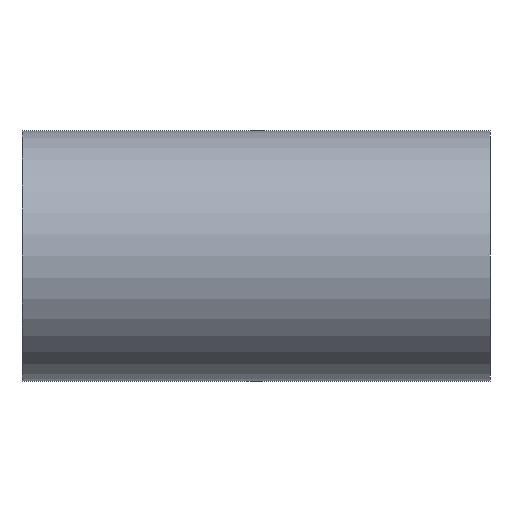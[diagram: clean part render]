
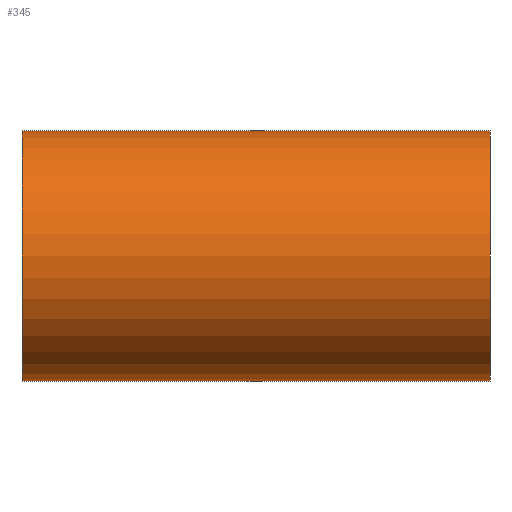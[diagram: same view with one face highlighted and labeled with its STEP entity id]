
A CAD part, left-side view. The second image highlights one B-rep face of the part: STEP entity #345.
In plain terms, the highlighted cylindrical face has radius 30.5 mm (diameter 61 mm), a full revolution.
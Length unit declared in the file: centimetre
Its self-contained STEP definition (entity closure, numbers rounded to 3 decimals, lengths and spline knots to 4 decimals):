
#54=FACE_BOUND('',#132,.T.);
#55=FACE_BOUND('',#133,.T.);
#78=CIRCLE('',#384,3.05);
#79=CIRCLE('',#385,3.05);
#99=FACE_OUTER_BOUND('',#131,.T.);
#131=EDGE_LOOP('',(#274));
#132=EDGE_LOOP('',(#275,#276));
#133=EDGE_LOOP('',(#277));
#151=ELLIPSE('',#357,4.3134,3.05);
#152=ELLIPSE('',#358,4.3134,3.05);
#155=VERTEX_POINT('',#489);
#156=VERTEX_POINT('',#490);
#179=VERTEX_POINT('',#3943);
#180=VERTEX_POINT('',#3945);
#185=EDGE_CURVE('',#155,#156,#151,.T.);
#186=EDGE_CURVE('',#156,#155,#152,.T.);
#216=EDGE_CURVE('',#179,#179,#78,.T.);
#217=EDGE_CURVE('',#180,#180,#79,.T.);
#274=ORIENTED_EDGE('',*,*,#216,.F.);
#275=ORIENTED_EDGE('',*,*,#185,.T.);
#276=ORIENTED_EDGE('',*,*,#186,.T.);
#277=ORIENTED_EDGE('',*,*,#217,.F.);
#301=CYLINDRICAL_SURFACE('',#383,3.05);
#345=ADVANCED_FACE('',(#99,#54,#55),#301,.T.);
#357=AXIS2_PLACEMENT_3D('',#491,#402,#403);
#358=AXIS2_PLACEMENT_3D('',#492,#404,#405);
#383=AXIS2_PLACEMENT_3D('',#3942,#457,#458);
#384=AXIS2_PLACEMENT_3D('',#3944,#459,#460);
#385=AXIS2_PLACEMENT_3D('',#3946,#461,#462);
#402=DIRECTION('center_axis',(-0.707,0.707,0.));
#403=DIRECTION('ref_axis',(0.707,0.707,0.));
#404=DIRECTION('center_axis',(-0.707,-0.707,0.));
#405=DIRECTION('ref_axis',(-0.707,0.707,0.));
#457=DIRECTION('center_axis',(0.,-1.,0.));
#458=DIRECTION('ref_axis',(1.,0.,0.));
#459=DIRECTION('center_axis',(0.,1.,0.));
#460=DIRECTION('ref_axis',(1.,0.,0.));
#461=DIRECTION('center_axis',(0.,-1.,0.));
#462=DIRECTION('ref_axis',(1.,0.,0.));
#489=CARTESIAN_POINT('',(0.,0.,3.05));
#490=CARTESIAN_POINT('',(0.,0.,-3.05));
#491=CARTESIAN_POINT('Origin',(0.,0.,0.));
#492=CARTESIAN_POINT('Origin',(0.,0.,0.));
#3942=CARTESIAN_POINT('Origin',(0.,0.,0.));
#3943=CARTESIAN_POINT('',(-3.05,5.7,0.));
#3944=CARTESIAN_POINT('Origin',(0.,5.7,0.));
#3945=CARTESIAN_POINT('',(-3.05,-5.7,0.));
#3946=CARTESIAN_POINT('Origin',(0.,-5.7,0.));
